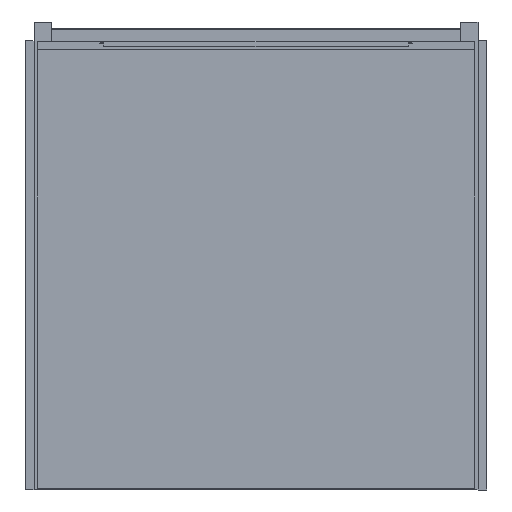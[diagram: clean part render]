
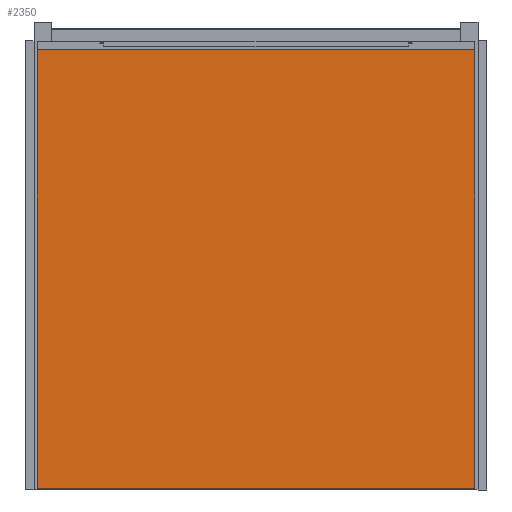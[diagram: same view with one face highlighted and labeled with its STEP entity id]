
A CAD part, front view. The second image highlights one B-rep face of the part: STEP entity #2350.
In plain terms, the highlighted planar face has unit normal (0, -1, 0).
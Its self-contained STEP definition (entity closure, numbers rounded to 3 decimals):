
#235=FACE_OUTER_BOUND('',#387,.T.);
#387=EDGE_LOOP('',(#1633,#1634,#1635,#1636));
#559=LINE('',#3567,#793);
#561=LINE('',#3573,#795);
#564=LINE('',#3578,#798);
#565=LINE('',#3579,#799);
#793=VECTOR('',#2820,401.);
#795=VECTOR('',#2824,401.);
#798=VECTOR('',#2829,402.);
#799=VECTOR('',#2830,402.);
#1012=VERTEX_POINT('',#3560);
#1015=VERTEX_POINT('',#3565);
#1017=VERTEX_POINT('',#3570);
#1018=VERTEX_POINT('',#3572);
#1244=EDGE_CURVE('',#1015,#1012,#559,.T.);
#1246=EDGE_CURVE('',#1017,#1018,#561,.T.);
#1249=EDGE_CURVE('',#1015,#1018,#564,.T.);
#1250=EDGE_CURVE('',#1012,#1017,#565,.T.);
#1633=ORIENTED_EDGE('',*,*,#1249,.T.);
#1634=ORIENTED_EDGE('',*,*,#1246,.F.);
#1635=ORIENTED_EDGE('',*,*,#1250,.F.);
#1636=ORIENTED_EDGE('',*,*,#1244,.F.);
#2268=PLANE('',#2511);
#2350=ADVANCED_FACE('',(#235),#2268,.F.);
#2511=AXIS2_PLACEMENT_3D('',#3577,#2827,#2828);
#2820=DIRECTION('',(1.,0.,0.));
#2824=DIRECTION('',(-1.,0.,0.));
#2827=DIRECTION('center_axis',(0.,1.,0.));
#2828=DIRECTION('ref_axis',(0.,0.,1.));
#2829=DIRECTION('',(0.,0.,-1.));
#2830=DIRECTION('',(0.,0.,-1.));
#3560=CARTESIAN_POINT('',(412.,0.,403.5));
#3565=CARTESIAN_POINT('',(11.,0.,403.5));
#3567=CARTESIAN_POINT('',(211.5,0.,403.5));
#3570=CARTESIAN_POINT('',(412.,0.,1.5));
#3572=CARTESIAN_POINT('',(11.,0.,1.5));
#3573=CARTESIAN_POINT('',(211.5,0.,1.5));
#3577=CARTESIAN_POINT('Origin',(211.5,0.,202.5));
#3578=CARTESIAN_POINT('',(11.,0.,202.5));
#3579=CARTESIAN_POINT('',(412.,0.,202.5));
